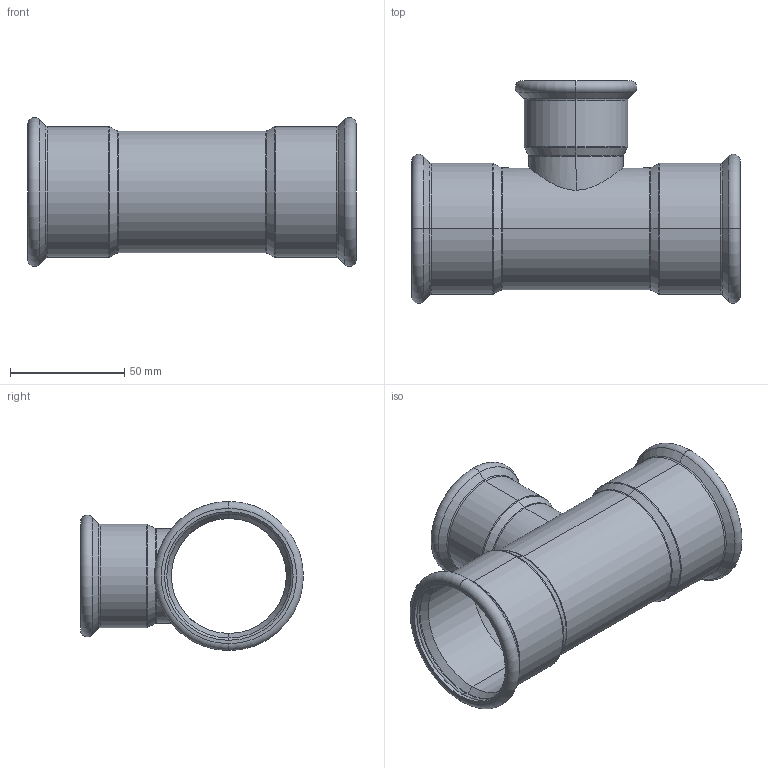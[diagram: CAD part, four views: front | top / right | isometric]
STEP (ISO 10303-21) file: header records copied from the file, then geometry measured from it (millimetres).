
FILE_DESCRIPTION (( 'STEP AP214' ), '1' );
FILE_NAME ('T54420R.STEP', '2025-08-18T00:25:35', ( '' ), ( '' ), 'SwSTEP 2.0', 'SolidWorks 2020', '' );
FILE_SCHEMA (( 'AUTOMOTIVE_DESIGN' ));
Length unit declared in the file: millimetre
Products named in the file (1): T54420R
Bounding box: 144 x 97.7 x 65.39 mm (x, y, z)
Volume: 48684.9 mm3; surface area: 66758.6 mm2
Topology: 4 solids, 4 shells, 98 faces, 198 edges, 106 vertices
Faces by surface type: torus 42, cylinder 26, cone 24, plane 6
Entity records: 3931 total; most frequent: CARTESIAN_POINT 641, DIRECTION 536, ORIENTED_EDGE 396, AXIS2_PLACEMENT_3D 243, EDGE_CURVE 198, CIRCLE 144, VERTEX_POINT 106, EDGE_LOOP 106
